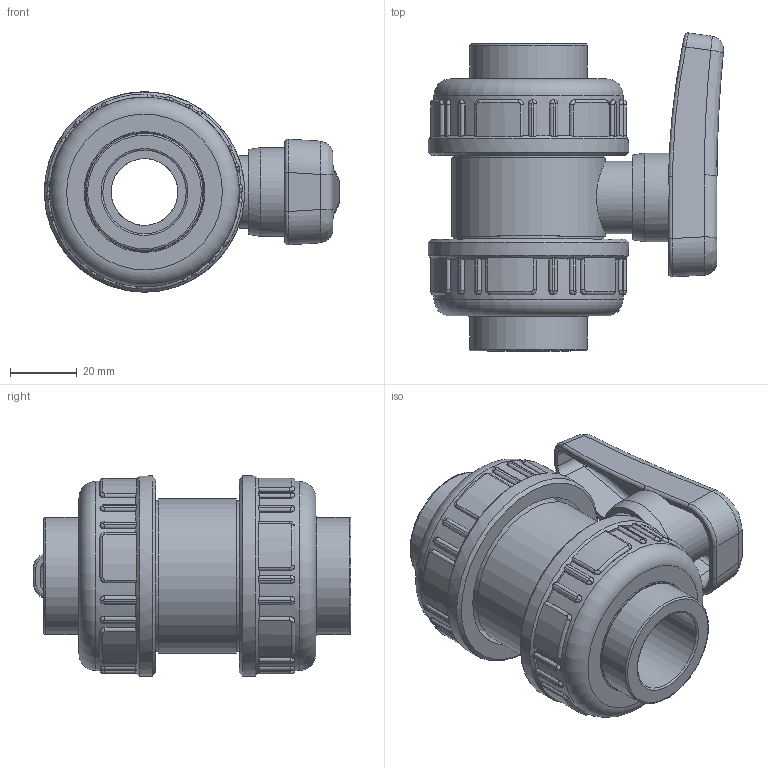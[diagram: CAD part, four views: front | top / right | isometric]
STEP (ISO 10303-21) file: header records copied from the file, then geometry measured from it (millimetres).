
FILE_DESCRIPTION(/* description */ (''),/* implementation_level */ '2;1');
FILE_NAME(/* name */ 'C:\Users\POLYPIPE\Desktop\DATASET INVENTOR\LIBRERIA EFFAST\3D_VALVOLE\3D_VALVOLE A SFERA\3D_BV\3D_BDRBVD\3D_BDRBVD0250.stp',/* time_stamp */ '2018-01-23T15:52:48+01:00',/* author */ ('POLYPIPE'),/* organization */ (''),/* preprocessor_version */ 'ST-DEVELOPER v16.1',/* originating_system */ 'Autodesk Inventor 2016',/* authorisation */ '');
FILE_SCHEMA (('CONFIG_CONTROL_DESIGN'));
Length unit declared in the file: centimetre
Products named in the file (1): 3D_BDRBVD0250
Bounding box: 88.46 x 95.27 x 59.99 mm (x, y, z)
Volume: 152079.6 mm3; surface area: 54194.7 mm2
Topology: 2 solids, 3 shells, 526 faces, 1339 edges, 841 vertices
Faces by surface type: plane 175, cylinder 164, bspline 162, torus 20, cone 5
Full cylindrical faces by diameter (mm): 13.9 x1, 20 x2, 20.2 x1, 21.8 x1, 23.8 x1, 25 x2, 26.6 x1, 31.4 x1, 35 x1, 35.1 x2, 35.7 x2, 36.2 x2, 42.75 x2, 45.15 x2, 46.15 x1, 48.3 x2, 56.7 x2, 60 x2
Entity records: 60475 total; most frequent: CARTESIAN_POINT 48182, ORIENTED_EDGE 2578, DIRECTION 2169, EDGE_CURVE 1287, AXIS2_PLACEMENT_3D 840, VERTEX_POINT 830, EDGE_LOOP 595, STYLED_ITEM 528
